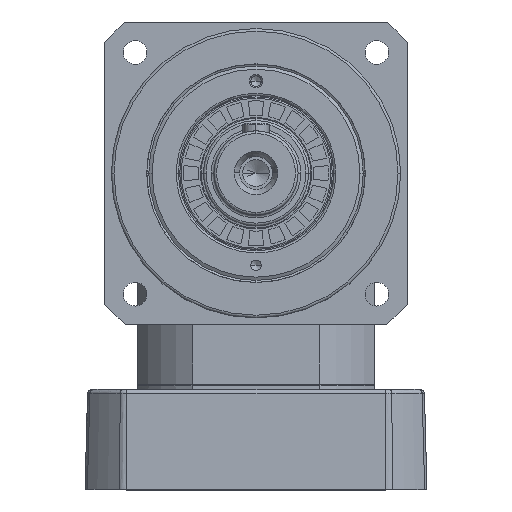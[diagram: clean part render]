
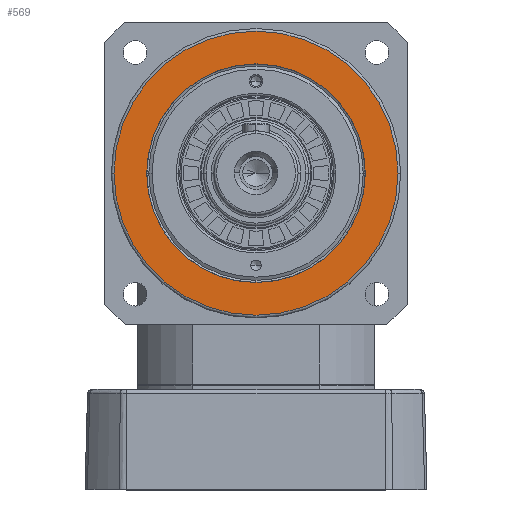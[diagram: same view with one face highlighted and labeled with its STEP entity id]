
A CAD part, top view. The second image highlights one B-rep face of the part: STEP entity #569.
In plain terms, the highlighted planar face has unit normal (0, 0, 1).
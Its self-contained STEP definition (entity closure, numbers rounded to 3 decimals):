
#394 = EDGE_CURVE ( 'NONE', #46289, #47947, #38504, .T. ) ;
#569 = ADVANCED_FACE ( 'NONE', ( #22960, #32617 ), #18933, .T. ) ;
#2416 = DIRECTION ( 'NONE',  ( 0., 0., -1. ) ) ;
#4121 = CARTESIAN_POINT ( 'NONE',  ( 0., -41.55, 72.5 ) ) ;
#4867 = DIRECTION ( 'NONE',  ( 0., 0., 1. ) ) ;
#8223 = CARTESIAN_POINT ( 'NONE',  ( -54., 0., 72.5 ) ) ;
#10215 = VERTEX_POINT ( 'NONE', #4121 ) ;
#11775 = EDGE_LOOP ( 'NONE', ( #53806, #49088 ) ) ;
#14004 = AXIS2_PLACEMENT_3D ( 'NONE', #25235, #58138, #30029 ) ;
#16009 = CARTESIAN_POINT ( 'NONE',  ( 0., 41.55, 72.5 ) ) ;
#18933 = PLANE ( 'NONE',  #19573 ) ;
#19573 = AXIS2_PLACEMENT_3D ( 'NONE', #51859, #4867, #37953 ) ;
#20143 = AXIS2_PLACEMENT_3D ( 'NONE', #21470, #54374, #26242 ) ;
#20480 = AXIS2_PLACEMENT_3D ( 'NONE', #30730, #2416, #35516 ) ;
#21470 = CARTESIAN_POINT ( 'NONE',  ( 0., 0., 72.5 ) ) ;
#22409 = DIRECTION ( 'NONE',  ( 0., 0., -1. ) ) ;
#22960 = FACE_OUTER_BOUND ( 'NONE', #11775, .T. ) ;
#23462 = CIRCLE ( 'NONE', #49566, 41.55 ) ;
#25235 = CARTESIAN_POINT ( 'NONE',  ( 0., 0., 72.5 ) ) ;
#26242 = DIRECTION ( 'NONE',  ( 1., 0., 0. ) ) ;
#27466 = EDGE_LOOP ( 'NONE', ( #30935, #35831 ) ) ;
#28079 = EDGE_CURVE ( 'NONE', #40836, #10215, #44549, .T. ) ;
#30029 = DIRECTION ( 'NONE',  ( 1., 0., 0. ) ) ;
#30730 = CARTESIAN_POINT ( 'NONE',  ( 0., 0., 72.5 ) ) ;
#30935 = ORIENTED_EDGE ( 'NONE', *, *, #43889, .T. ) ;
#32617 = FACE_BOUND ( 'NONE', #27466, .T. ) ;
#35516 = DIRECTION ( 'NONE',  ( 0., -1., 0. ) ) ;
#35831 = ORIENTED_EDGE ( 'NONE', *, *, #28079, .T. ) ;
#37953 = DIRECTION ( 'NONE',  ( 1., 0., 0. ) ) ;
#38504 = CIRCLE ( 'NONE', #20143, 54. ) ;
#40836 = VERTEX_POINT ( 'NONE', #16009 ) ;
#43065 = EDGE_CURVE ( 'NONE', #47947, #46289, #59592, .T. ) ;
#43889 = EDGE_CURVE ( 'NONE', #10215, #40836, #23462, .T. ) ;
#44214 = CARTESIAN_POINT ( 'NONE',  ( 54., 0., 72.5 ) ) ;
#44549 = CIRCLE ( 'NONE', #20480, 41.55 ) ;
#46289 = VERTEX_POINT ( 'NONE', #44214 ) ;
#47947 = VERTEX_POINT ( 'NONE', #8223 ) ;
#49088 = ORIENTED_EDGE ( 'NONE', *, *, #43065, .F. ) ;
#49566 = AXIS2_PLACEMENT_3D ( 'NONE', #50595, #22409, #55329 ) ;
#50595 = CARTESIAN_POINT ( 'NONE',  ( 0., 0., 72.5 ) ) ;
#51859 = CARTESIAN_POINT ( 'NONE',  ( 0., 0., 72.5 ) ) ;
#53806 = ORIENTED_EDGE ( 'NONE', *, *, #394, .F. ) ;
#54374 = DIRECTION ( 'NONE',  ( 0., 0., -1. ) ) ;
#55329 = DIRECTION ( 'NONE',  ( 0., -1., 0. ) ) ;
#58138 = DIRECTION ( 'NONE',  ( 0., 0., -1. ) ) ;
#59592 = CIRCLE ( 'NONE', #14004, 54. ) ;
